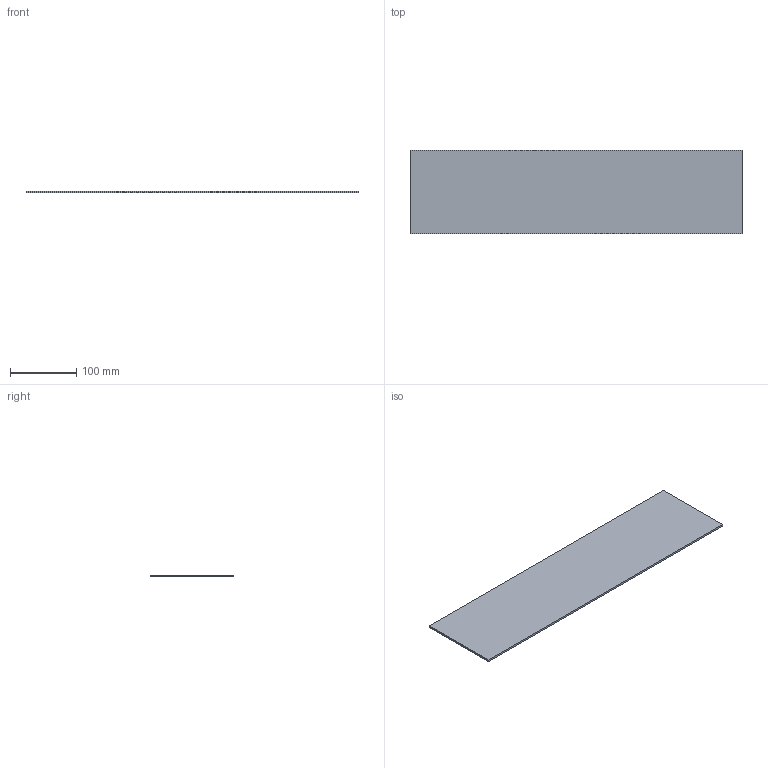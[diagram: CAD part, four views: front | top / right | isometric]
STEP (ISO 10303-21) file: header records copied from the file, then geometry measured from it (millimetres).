
FILE_DESCRIPTION(('STEP AP203'),'1');
FILE_NAME('ps1000x60x3mm.stp','2024-09-16T12:58:55',('TraceParts'),('TraceParts S.A.'),'Spatial InterOp 3D',' ',' ');
FILE_SCHEMA(('CONFIG_CONTROL_DESIGN'));
Length unit declared in the file: millimetre
Products named in the file (1): 1
Bounding box: 500 x 126 x 3 mm (x, y, z)
Volume: 189000 mm3; surface area: 129756 mm2
Topology: 1 solids, 1 shells, 6 faces, 12 edges, 8 vertices
Faces by surface type: plane 6
Entity records: 200 total; most frequent: CARTESIAN_POINT 27, DIRECTION 26, ORIENTED_EDGE 24, EDGE_CURVE 12, LINE 12, VECTOR 12, VERTEX_POINT 8, AXIS2_PLACEMENT_3D 7
